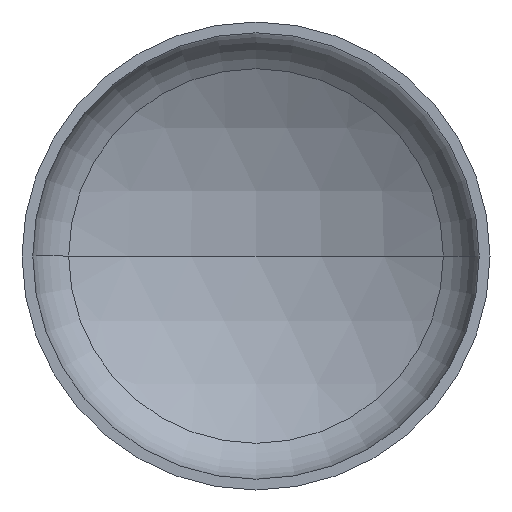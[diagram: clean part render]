
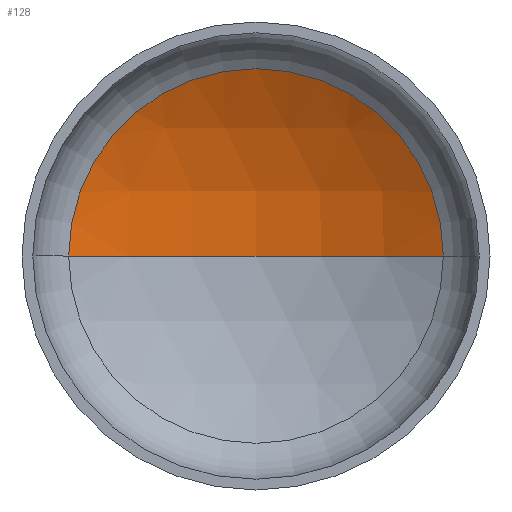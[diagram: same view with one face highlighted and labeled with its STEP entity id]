
A CAD part, front view. The second image highlights one B-rep face of the part: STEP entity #128.
In plain terms, the highlighted spherical face has radius 3200 mm.
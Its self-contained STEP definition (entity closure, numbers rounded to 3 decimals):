
#1 = AXIS2_PLACEMENT_3D ( 'NONE', #133, #250, #73 ) ;
#4 = AXIS2_PLACEMENT_3D ( 'NONE', #162, #163, #372 ) ;
#6 = AXIS2_PLACEMENT_3D ( 'NONE', #150, #77, #91 ) ;
#33 = AXIS2_PLACEMENT_3D ( 'NONE', #287, #186, #170 ) ;
#69 = CARTESIAN_POINT ( 'NONE',  ( -1600.619, 632.537, 0. ) ) ;
#73 = DIRECTION ( 'NONE',  ( 1., 0., 0. ) ) ;
#77 = DIRECTION ( 'NONE',  ( 0., 0., 1. ) ) ;
#82 = EDGE_LOOP ( 'NONE', ( #166, #410, #90 ) ) ;
#90 = ORIENTED_EDGE ( 'NONE', *, *, #383, .T. ) ;
#91 = DIRECTION ( 'NONE',  ( 1., 0., 0. ) ) ;
#128 = ADVANCED_FACE ( 'NONE', ( #400 ), #336, .F. ) ;
#129 = CIRCLE ( 'NONE', #4, 3200. ) ;
#133 = CARTESIAN_POINT ( 'NONE',  ( 0., 632.537, 0. ) ) ;
#150 = CARTESIAN_POINT ( 'NONE',  ( 0., -2138.387, 0. ) ) ;
#161 = VERTEX_POINT ( 'NONE', #69 ) ;
#162 = CARTESIAN_POINT ( 'NONE',  ( 0., -2138.387, 0. ) ) ;
#163 = DIRECTION ( 'NONE',  ( 0., 0., -1. ) ) ;
#166 = ORIENTED_EDGE ( 'NONE', *, *, #359, .F. ) ;
#170 = DIRECTION ( 'NONE',  ( -1., 0., 0. ) ) ;
#183 = VERTEX_POINT ( 'NONE', #247 ) ;
#186 = DIRECTION ( 'NONE',  ( 0., 0., -1. ) ) ;
#217 = CARTESIAN_POINT ( 'NONE',  ( 0., 1061.613, 0. ) ) ;
#247 = CARTESIAN_POINT ( 'NONE',  ( 1600.619, 632.537, 0. ) ) ;
#250 = DIRECTION ( 'NONE',  ( 0., -1., 0. ) ) ;
#285 = CIRCLE ( 'NONE', #6, 3200. ) ;
#287 = CARTESIAN_POINT ( 'NONE',  ( 0., -2138.387, 0. ) ) ;
#336 = SPHERICAL_SURFACE ( 'NONE', #33, 3200. ) ;
#357 = CIRCLE ( 'NONE', #1, 1600.619 ) ;
#358 = VERTEX_POINT ( 'NONE', #217 ) ;
#359 = EDGE_CURVE ( 'NONE', #358, #161, #285, .T. ) ;
#372 = DIRECTION ( 'NONE',  ( -1., 0., 0. ) ) ;
#382 = EDGE_CURVE ( 'NONE', #358, #183, #129, .T. ) ;
#383 = EDGE_CURVE ( 'NONE', #183, #161, #357, .T. ) ;
#400 = FACE_OUTER_BOUND ( 'NONE', #82, .T. ) ;
#410 = ORIENTED_EDGE ( 'NONE', *, *, #382, .T. ) ;
